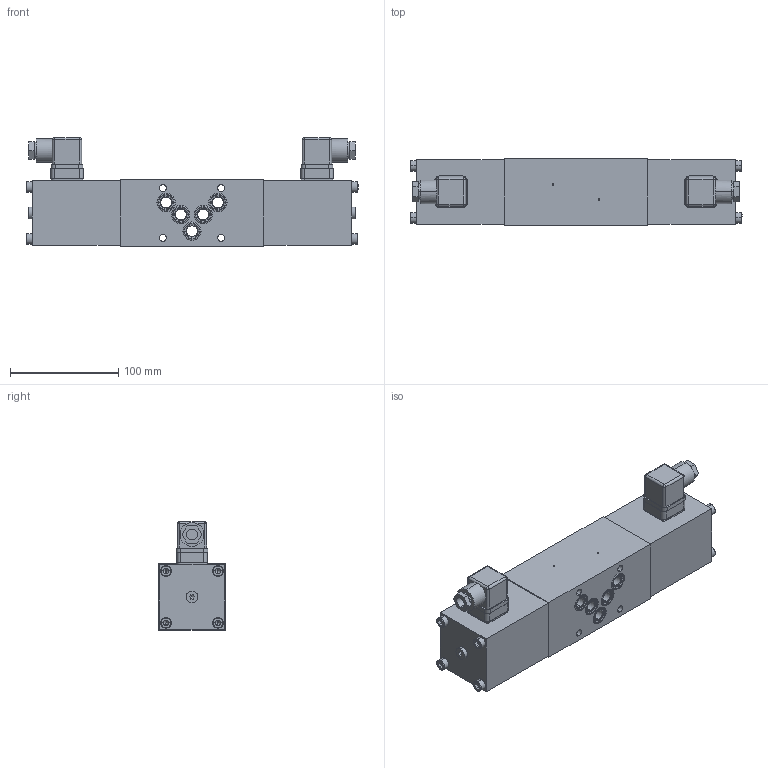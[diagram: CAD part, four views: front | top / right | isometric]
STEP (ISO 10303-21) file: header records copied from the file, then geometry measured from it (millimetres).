
FILE_DESCRIPTION (( 'STEP AP214' ), '1' );
FILE_NAME ('Z.22101AB.STEP', '2017-03-08T12:43:48', ( '' ), ( '' ), 'SwSTEP 2.0', 'SolidWorks 2016', '' );
FILE_SCHEMA (( 'AUTOMOTIVE_DESIGN' ));
Length unit declared in the file: millimetre
Products named in the file (1): Z.22101AB
Bounding box: 307.4 x 62 x 100.8 mm (x, y, z)
Volume: 1120136.6 mm3; surface area: 153260.5 mm2
Topology: 17 solids, 40 shells, 1098 faces, 2792 edges, 1774 vertices
Faces by surface type: plane 589, cylinder 345, cone 80, bspline 52, torus 32
Entity records: 46094 total; most frequent: CARTESIAN_POINT 7074, DIRECTION 5674, ORIENTED_EDGE 5472, EDGE_CURVE 2736, AXIS2_PLACEMENT_3D 1996, VERTEX_POINT 1774, VECTOR 1682, LINE 1682
